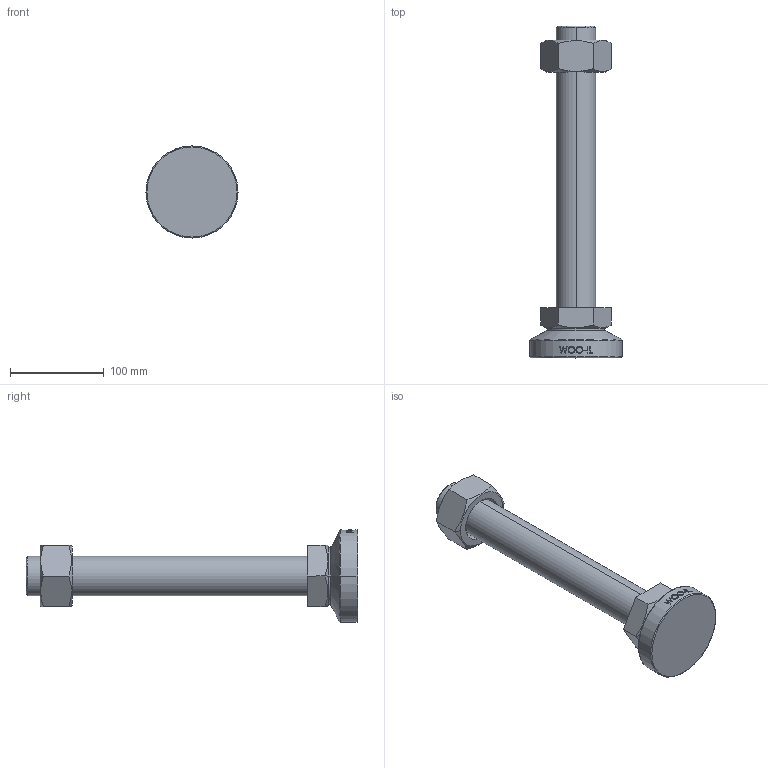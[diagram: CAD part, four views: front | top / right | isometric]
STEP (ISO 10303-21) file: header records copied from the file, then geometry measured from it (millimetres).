
FILE_DESCRIPTION (( 'STEP AP214' ), '1' );
FILE_NAME ('MFB98-M42-300.step', '2022-06-27T08:37:58', ( '' ), ( '' ), 'SwSTEP 2.0', 'SolidWorks 2019', '' );
FILE_SCHEMA (( 'AUTOMOTIVE_DESIGN' ));
Length unit declared in the file: millimetre
Products named in the file (1): MFB98-M42-300
Bounding box: 98 x 353.5 x 98 mm (x, y, z)
Volume: 773025.4 mm3; surface area: 89199.8 mm2
Topology: 3 solids, 3 shells, 97 faces, 225 edges, 144 vertices
Faces by surface type: plane 47, cylinder 16, bspline 16, cone 14, torus 4
Entity records: 4315 total; most frequent: CARTESIAN_POINT 2185, ORIENTED_EDGE 450, DIRECTION 385, EDGE_CURVE 225, AXIS2_PLACEMENT_3D 144, VERTEX_POINT 144, EDGE_LOOP 109, LINE 97
